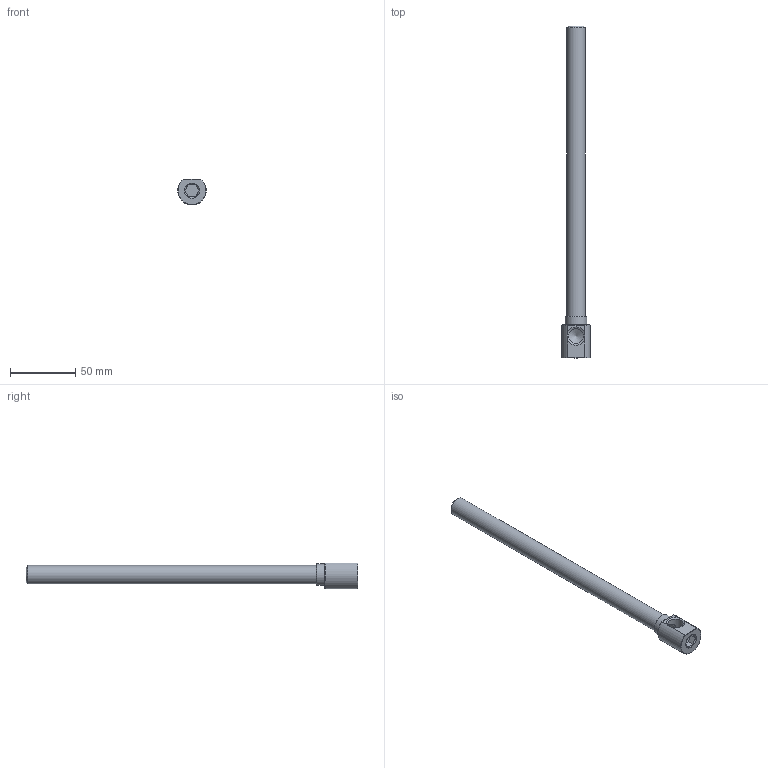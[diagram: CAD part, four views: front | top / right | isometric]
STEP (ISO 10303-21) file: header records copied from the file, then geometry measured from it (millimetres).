
FILE_DESCRIPTION(/* description */ (''),/* implementation_level */ '2;1');
FILE_NAME(/* name */ 'C:/Users/drich/Desktop/EKL14 X 10 v2.step',/* time_stamp */ '2019-11-18T14:33:29-06:00',/* author */ (''),/* organization */ (''),/* preprocessor_version */ 'ST-DEVELOPER v18',/* originating_system */ 'Autodesk Translation Framework v8.12.0.6',/* authorisation */ '');
FILE_SCHEMA (('AUTOMOTIVE_DESIGN { 1 0 10303 214 3 1 1 }'));
Length unit declared in the file: inch
Products named in the file (2): EKL14 X 10; EKL14 X 10_1
Assembly tree (1 placements, depth 2):
  EKL14 X 10
    EKL14 X 10_1
Bounding box: 21.77 x 254 x 19.77 mm (x, y, z)
Volume: 29032.8 mm3; surface area: 19636.6 mm2
Topology: 1 solids, 1 shells, 32 faces, 78 edges, 51 vertices
Faces by surface type: plane 16, cone 10, cylinder 6
Full cylindrical faces by diameter (mm): 8.712 x1, 11.176 x1, 11.668 x1, 14.143 x1, 16.51 x1
Entity records: 1047 total; most frequent: CARTESIAN_POINT 242, DIRECTION 159, ORIENTED_EDGE 154, EDGE_CURVE 77, AXIS2_PLACEMENT_3D 63, VERTEX_POINT 51, EDGE_LOOP 38, LINE 33
